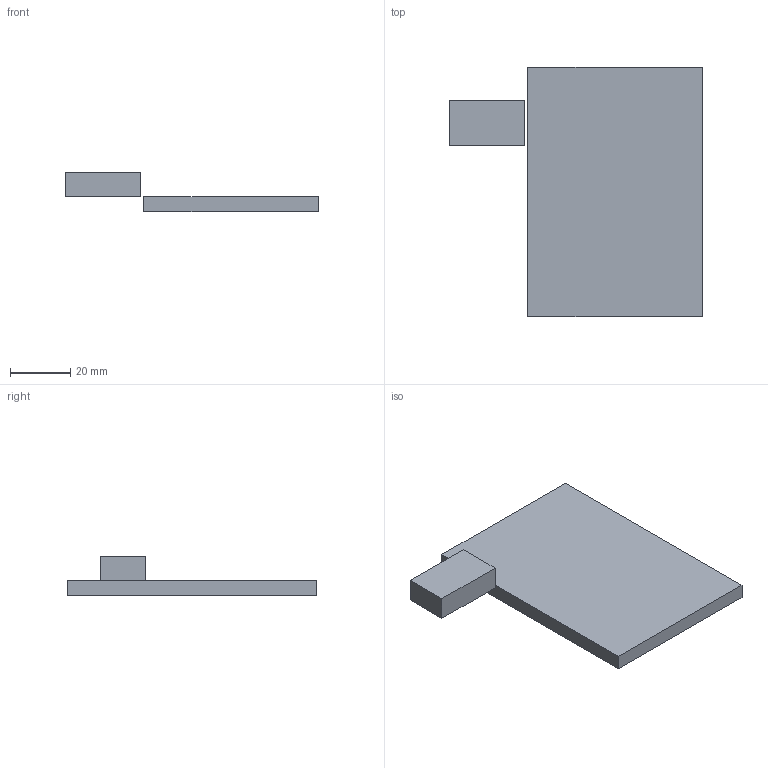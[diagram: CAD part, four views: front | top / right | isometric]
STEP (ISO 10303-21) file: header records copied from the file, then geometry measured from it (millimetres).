
FILE_DESCRIPTION(('Open CASCADE Model'),'2;1');
FILE_NAME('eps_board','2026-08-12T02:42:45',('Author'),('Open CASCADE'), 'Open CASCADE STEP processor 7.9','build123d','Unknown');
FILE_SCHEMA(('AUTOMOTIVE_DESIGN { 1 0 10303 214 1 1 1 1 }'));
Length unit declared in the file: millimetre
Products named in the file (3): eps_board; COMPOUND
Assembly tree (2 placements, depth 2):
  eps_board
    COMPOUND
    COMPOUND
Bounding box: 84 x 83 x 13 mm (x, y, z)
Volume: 27070 mm3; surface area: 12428 mm2
Topology: 2 solids, 2 shells, 12 faces, 24 edges, 16 vertices
Faces by surface type: plane 12
Entity records: 664 total; most frequent: CARTESIAN_POINT 103, DIRECTION 102, LINE 72, VECTOR 72, ORIENTED_EDGE 48, PCURVE 48, DEFINITIONAL_REPRESENTATION 48, EDGE_CURVE 24
